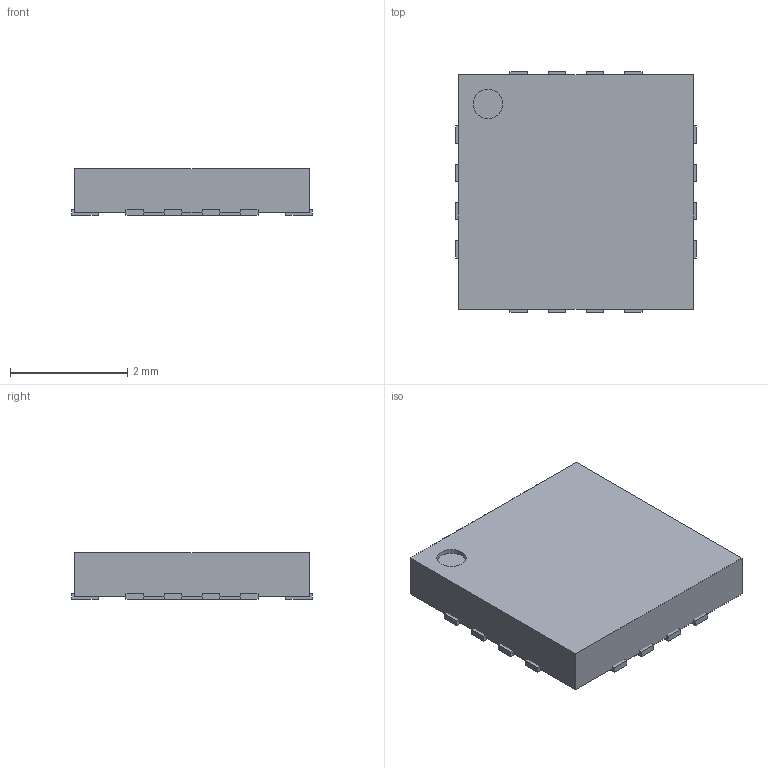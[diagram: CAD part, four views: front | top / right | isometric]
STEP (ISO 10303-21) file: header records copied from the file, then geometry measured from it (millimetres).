
FILE_DESCRIPTION(('FreeCAD Model'),'2;1');
FILE_NAME('/var/www/3D/0T/814044.1.1.stp','2020-04-09T12:09:40',( 'Author'),(''),'Open CASCADE STEP processor 6.9','FreeCAD','Unknown' );
FILE_SCHEMA(('AUTOMOTIVE_DESIGN { 1 0 10303 214 1 1 1 1 }'));
Length unit declared in the file: millimetre
Products named in the file (5): ASSEMBLY; Body; ThermalPin; PinsArrayLR; PinsArrayTB
Assembly tree (4 placements, depth 2):
  ASSEMBLY
    Body
    ThermalPin
    PinsArrayLR
    PinsArrayTB
Bounding box: 4.1 x 4.1 x 0.8 mm (x, y, z)
Volume: 12.6 mm3; surface area: 60.3 mm2
Topology: 18 solids, 18 shells, 110 faces, 219 edges, 146 vertices
Faces by surface type: plane 109, cylinder 1
Full cylindrical faces by diameter (mm): 0.5 x1
Entity records: 5848 total; most frequent: CARTESIAN_POINT 918, DIRECTION 889, LINE 653, VECTOR 653, ORIENTED_EDGE 438, PCURVE 438, DEFINITIONAL_REPRESENTATION 438, EDGE_CURVE 219
